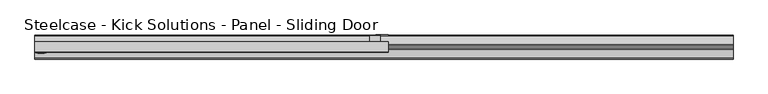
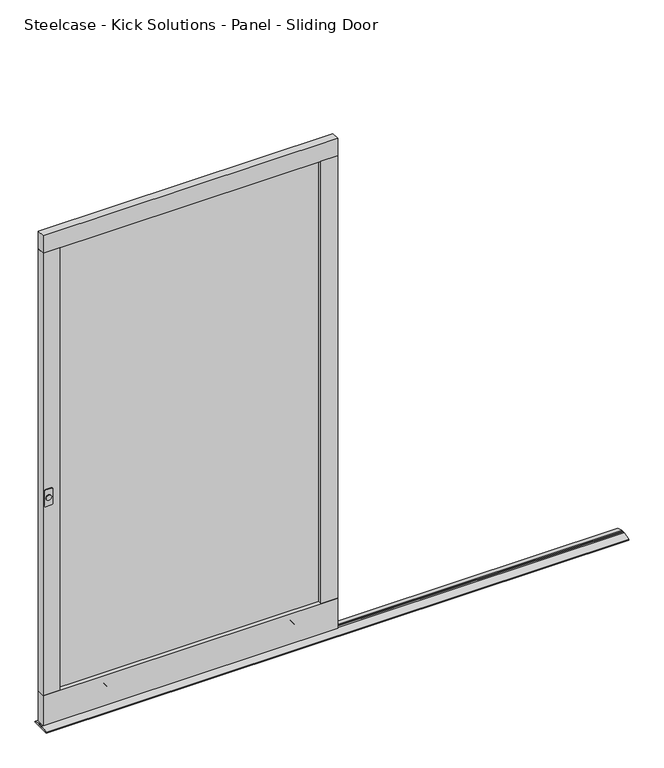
"""IFC4 building model written with IfcOpenShell, lengths in millimetres: furniture geometry, Steelcase - Kick Solutions - Panel - Sliding Door : 78H x 42W - Right Hand with Lock."""

from ifc_helpers import new_model, si_unit, point, frame, frame_2d, origin, place, context, project, spatial, polyline, circle_curve, trimmed, segment, composite_curve, outline, extrude, source, transform, mapped, element, save
from ifc_brep_helpers import plane_surface, cylinder_surface, advanced_brep


def steelcase_kick_solutions_panel_sliding_door_e0c5a5d8(model_context):
    return source(origin(), model_context, "Body", "SolidModel", [
        extrude(outline(composite_curve([segment(trimmed(circle_curve(frame_2d((927.2505008, 19.1322304)), 10.2804656), [point((937.5309664, 19.1322304))], [point((916.9700352, 19.1322304))], False, "CARTESIAN"), True, "CONTINUOUS"), segment(trimmed(circle_curve(frame_2d((927.2505008, 19.1322304)), 10.2804656), [point((916.9700352, 19.1322304))], [point((937.5309664, 19.1322304))], False, "CARTESIAN"), True, "CONTINUOUS")], self_intersect=False)), frame((0.0, -46.3394499, 0.0), z_axis=(0.0, 1.0, 0.0), x_axis=(0.0, 0.0, 1.0)), (0.0, 0.0, 1.0), 2.159),
        extrude(outline(composite_curve([segment(trimmed(circle_curve(frame_2d((954.4039028, 8.8899651)), 6.35), [point((960.7539028, 8.8899651))], [point((954.4039028, 2.5399651))], False, "CARTESIAN"), True, "CONTINUOUS"), segment(polyline([(954.4039028, 2.5399651), (899.7939028, 2.5399651)]), True, "CONTINUOUS"), segment(trimmed(circle_curve(frame_2d((899.7939028, 8.8899651)), 6.35), [point((899.7939028, 2.5399651))], [point((893.4439028, 8.8899651))], False, "CARTESIAN"), True, "CONTINUOUS"), segment(polyline([(893.4439028, 8.8899651), (893.4439028, 29.2099651)]), True, "CONTINUOUS"), segment(trimmed(circle_curve(frame_2d((899.7939028, 29.2099651)), 6.35), [point((893.4439028, 29.2099651))], [point((899.7939028, 35.5599651))], False, "CARTESIAN"), True, "CONTINUOUS"), segment(polyline([(899.7939028, 35.5599651), (954.4039028, 35.5599651)]), True, "CONTINUOUS"), segment(trimmed(circle_curve(frame_2d((954.4039028, 29.2099651)), 6.35), [point((954.4039028, 35.5599651))], [point((960.7539028, 29.2099651))], False, "CARTESIAN"), True, "CONTINUOUS"), segment(polyline([(960.7539028, 29.2099651), (960.7539028, 8.8899651)]), True, "CONTINUOUS")], self_intersect=False)), frame((0.0, -44.1804499, 0.0), z_axis=(0.0, 1.0, 0.0), x_axis=(0.0, 0.0, 1.0)), (0.0, 0.0, 1.0), 2.1118392),
        extrude(outline(composite_curve([segment(polyline([(1247.1399783, 1079.3958938), (1247.1399783, 1096.0915604)]), True, "CONTINUOUS"), segment(trimmed(circle_curve(frame_2d((1238.4356449, 1096.0915604)), 8.7043334), [point((1247.1399783, 1096.0915604))], [point((1238.4356449, 1104.7958938))], True, "CARTESIAN"), True, "CONTINUOUS"), segment(polyline([(1238.4356449, 1104.7958938), (1216.7613141, 1104.7958938)]), True, "CONTINUOUS"), segment(trimmed(circle_curve(frame_2d((1216.7613141, 1097.074558)), 7.7213358), [point((1216.7613141, 1104.7958938))], [point((1209.0399783, 1097.074558))], True, "CARTESIAN"), True, "CONTINUOUS"), segment(polyline([(1209.0399783, 1097.074558), (1209.0399783, 1079.3958938), (1196.3399783, 1079.3958938), (1196.3399783, 1095.8242308)]), True, "CONTINUOUS"), segment(trimmed(circle_curve(frame_2d((1218.1157475, 1095.8242308)), 21.7757692), [point((1196.3399783, 1095.8242308))], [point((1218.1157475, 1117.6))], False, "CARTESIAN"), True, "CONTINUOUS"), segment(polyline([(1218.1157475, 1117.6), (1237.34852, 1117.6)]), True, "CONTINUOUS"), segment(trimmed(circle_curve(frame_2d((1237.34852, 1095.1085417)), 22.4914583), [point((1237.34852, 1117.6))], [point((1259.8399783, 1095.1085417))], False, "CARTESIAN"), True, "CONTINUOUS"), segment(polyline([(1259.8399783, 1095.1085417), (1259.8399783, 1079.3958938), (1247.1399783, 1079.3958938)]), True, "CONTINUOUS")], self_intersect=False)), frame((0.0, 9.7793101, 0.0), z_axis=(0.0, 1.0, 0.0), x_axis=(0.0, 0.0, 1.0)), (0.0, 0.0, 1.0), 2.1118397),
        extrude(outline(polyline([(1092.2634651, -10.3186092), (1059.2434651, -10.3186092), (1059.2434651, 9.7793101), (1092.2634651, 9.7793101), (1092.2634651, -10.3186092)])), frame((0.0, 0.0, 1133.4739028), z_axis=(0.0, 0.0, 1.0), x_axis=(1.0, 0.0, 0.0)), (0.0, 0.0, 1.0), 196.85),
        advanced_brep(
        [(914.4000484, -18.7010906, 6.7959428), (914.4000484, -18.7010906, 108.3959428), (914.4000484, -18.7010906, 57.5959428), (914.4000484, -23.8703628, 6.7959428), (914.4000484, -23.8703628, 108.3959428), (914.4000484, -23.8703628, 57.5959428)],
        [
            (0, 1, circle_curve(frame((914.4000484, -18.7010906, 57.5959428), z_axis=(0.0, 1.0, 0.0), x_axis=(0.0, 0.0, 1.0)), 50.8)),
            (1, 2),
            (2, 0),
            (1, 0, circle_curve(frame((914.4000484, -18.7010906, 57.5959428), z_axis=(0.0, 1.0, 0.0), x_axis=(0.0, 0.0, 1.0)), 50.8)),
            (3, 4, circle_curve(frame((914.4000484, -23.8703628, 57.5959428), z_axis=(0.0, 1.0, 0.0), x_axis=(0.0, 0.0, 1.0)), 50.8)),
            (4, 1),
            (0, 3),
            (4, 3, circle_curve(frame((914.4000484, -23.8703628, 57.5959428), z_axis=(0.0, 1.0, 0.0), x_axis=(0.0, 0.0, 1.0)), 50.8)),
            (5, 4),
            (3, 5),
        ],
        [
            plane_surface(frame((914.4000484, -18.7010906, 57.5959428), z_axis=(0.0, 1.0, 0.0), x_axis=(0.0, 0.0, 1.0))),
            cylinder_surface(frame((914.4000484, -28.422537, 57.5959428), z_axis=(0.0, -1.0, 0.0), x_axis=(0.0, 0.0, 1.0)), 50.8),
            plane_surface(frame((914.4000484, -23.8703628, 57.5959428), z_axis=(0.0, -1.0, 0.0), x_axis=(0.0, 0.0, 1.0))),
        ],
        [
            (0, [[1, 2, 3]]),
            (0, [[4, -3, -2]]),
            (1, [[5, 6, -1, 7]]),
            (1, [[8, -7, -4, -6]]),
            (2, [[9, -5, 10]]),
            (2, [[-10, -8, -9]]),
        ],
    ),
        advanced_brep(
        [(914.4000484, -28.422537, 6.7959428), (914.4000484, -28.422537, 108.3959428), (914.4000484, -28.422537, 57.5959428), (914.4000484, -33.4459111, 6.7959428), (914.4000484, -33.4459111, 108.3959428), (914.4000484, -33.4459111, 57.5959428)],
        [
            (0, 1, circle_curve(frame((914.4000484, -28.422537, 57.5959428), z_axis=(0.0, 1.0, 0.0), x_axis=(0.0, 0.0, 1.0)), 50.8)),
            (1, 2),
            (2, 0),
            (1, 0, circle_curve(frame((914.4000484, -28.422537, 57.5959428), z_axis=(0.0, 1.0, 0.0), x_axis=(0.0, 0.0, 1.0)), 50.8)),
            (3, 4, circle_curve(frame((914.4000484, -33.4459111, 57.5959428), z_axis=(0.0, 1.0, 0.0), x_axis=(0.0, 0.0, 1.0)), 50.8)),
            (4, 1),
            (0, 3),
            (4, 3, circle_curve(frame((914.4000484, -33.4459111, 57.5959428), z_axis=(0.0, 1.0, 0.0), x_axis=(0.0, 0.0, 1.0)), 50.8)),
            (5, 4),
            (3, 5),
        ],
        [
            plane_surface(frame((914.4000484, -28.422537, 57.5959428), z_axis=(0.0, 1.0, 0.0), x_axis=(0.0, 0.0, 1.0))),
            cylinder_surface(frame((914.4000484, -28.422537, 57.5959428), z_axis=(0.0, -1.0, 0.0), x_axis=(0.0, 0.0, 1.0)), 50.8),
            plane_surface(frame((914.4000484, -33.4459111, 57.5959428), z_axis=(0.0, -1.0, 0.0), x_axis=(0.0, 0.0, 1.0))),
        ],
        [
            (0, [[1, 2, 3]]),
            (0, [[4, -3, -2]]),
            (1, [[5, 6, -1, 7]]),
            (1, [[8, -7, -4, -6]]),
            (2, [[9, -5, 10]]),
            (2, [[-10, -8, -9]]),
        ],
    ),
        advanced_brep(
        [(203.2000484, -18.7010906, 6.7959428), (203.2000484, -18.7010906, 108.3959428), (203.2000484, -18.7010906, 57.5959428), (203.2000484, -23.8703628, 6.7959428), (203.2000484, -23.8703628, 108.3959428), (203.2000484, -23.8703628, 57.5959428)],
        [
            (0, 1, circle_curve(frame((203.2000484, -18.7010906, 57.5959428), z_axis=(0.0, 1.0, 0.0), x_axis=(0.0, 0.0, 1.0)), 50.8)),
            (1, 2),
            (2, 0),
            (1, 0, circle_curve(frame((203.2000484, -18.7010906, 57.5959428), z_axis=(0.0, 1.0, 0.0), x_axis=(0.0, 0.0, 1.0)), 50.8)),
            (3, 4, circle_curve(frame((203.2000484, -23.8703628, 57.5959428), z_axis=(0.0, 1.0, 0.0), x_axis=(0.0, 0.0, 1.0)), 50.8)),
            (4, 1),
            (0, 3),
            (4, 3, circle_curve(frame((203.2000484, -23.8703628, 57.5959428), z_axis=(0.0, 1.0, 0.0), x_axis=(0.0, 0.0, 1.0)), 50.8)),
            (5, 4),
            (3, 5),
        ],
        [
            plane_surface(frame((203.2000484, -18.7010906, 57.5959428), z_axis=(0.0, 1.0, 0.0), x_axis=(0.0, 0.0, 1.0))),
            cylinder_surface(frame((203.2000484, -28.422537, 57.5959428), z_axis=(0.0, -1.0, 0.0), x_axis=(0.0, 0.0, 1.0)), 50.8),
            plane_surface(frame((203.2000484, -23.8703628, 57.5959428), z_axis=(0.0, -1.0, 0.0), x_axis=(0.0, 0.0, 1.0))),
        ],
        [
            (0, [[1, 2, 3]]),
            (0, [[4, -3, -2]]),
            (1, [[5, 6, -1, 7]]),
            (1, [[8, -7, -4, -6]]),
            (2, [[9, -5, 10]]),
            (2, [[-10, -8, -9]]),
        ],
    ),
        advanced_brep(
        [(203.2000484, -28.422537, 6.7959428), (203.2000484, -28.422537, 108.3959428), (203.2000484, -28.422537, 57.5959428), (203.2000484, -33.4459111, 6.7959428), (203.2000484, -33.4459111, 108.3959428), (203.2000484, -33.4459111, 57.5959428)],
        [
            (0, 1, circle_curve(frame((203.2000484, -28.422537, 57.5959428), z_axis=(0.0, 1.0, 0.0), x_axis=(0.0, 0.0, 1.0)), 50.8)),
            (1, 2),
            (2, 0),
            (1, 0, circle_curve(frame((203.2000484, -28.422537, 57.5959428), z_axis=(0.0, 1.0, 0.0), x_axis=(0.0, 0.0, 1.0)), 50.8)),
            (3, 4, circle_curve(frame((203.2000484, -33.4459111, 57.5959428), z_axis=(0.0, 1.0, 0.0), x_axis=(0.0, 0.0, 1.0)), 50.8)),
            (4, 1),
            (0, 3),
            (4, 3, circle_curve(frame((203.2000484, -33.4459111, 57.5959428), z_axis=(0.0, 1.0, 0.0), x_axis=(0.0, 0.0, 1.0)), 50.8)),
            (5, 4),
            (3, 5),
        ],
        [
            plane_surface(frame((203.2000484, -28.422537, 57.5959428), z_axis=(0.0, 1.0, 0.0), x_axis=(0.0, 0.0, 1.0))),
            cylinder_surface(frame((203.2000484, -28.422537, 57.5959428), z_axis=(0.0, -1.0, 0.0), x_axis=(0.0, 0.0, 1.0)), 50.8),
            plane_surface(frame((203.2000484, -33.4459111, 57.5959428), z_axis=(0.0, -1.0, 0.0), x_axis=(0.0, 0.0, 1.0))),
        ],
        [
            (0, [[1, 2, 3]]),
            (0, [[4, -3, -2]]),
            (1, [[5, 6, -1, 7]]),
            (1, [[8, -7, -4, -6]]),
            (2, [[9, -5, 10]]),
            (2, [[-10, -8, -9]]),
        ],
    ),
        extrude(outline(polyline([(63.5000484, -42.0686107), (0.0, -42.0686107), (0.0, -10.3186092), (63.5000484, -10.3186092), (63.5000484, -42.0686107)])), frame((0.0, 0.0, 137.1589063), z_axis=(0.0, 0.0, 1.0), x_axis=(1.0, 0.0, 0.0)), (0.0, 0.0, 1.0), 1774.1911421),
        extrude(outline(polyline([(1117.6, -42.0686107), (1054.1000484, -42.0686107), (1054.1000484, -10.3186092), (1117.6, -10.3186092), (1117.6, -42.0686107)])), frame((0.0, 0.0, 137.1589063), z_axis=(0.0, 0.0, 1.0), x_axis=(1.0, 0.0, 0.0)), (0.0, 0.0, 1.0), 1774.1911421),
        extrude(outline(polyline([(-24.2505784, 6.2879429), (-17.9005799, 6.2879429), (-17.9005799, 12.2490843), (10.0049365, 3.0138476), (11.9383101, 0.0), (-64.2312094, 0.0), (-62.2978359, 3.0138476), (-34.3923194, 12.2490843), (-34.3923194, 6.2879429), (-28.042321, 6.2879429), (-28.042321, 12.6379425), (-24.2505784, 12.6379425), (-24.2505784, 6.2879429)])), frame((0.0, 0.0, 0.0), z_axis=(1.0, 0.0, 0.0), x_axis=(0.0, 1.0, 0.0)), (0.0, 0.0, 1.0), 2209.8),
        extrude(outline(polyline([(1117.6, -10.3186092), (1117.6, -42.0686107), (0.0, -42.0686107), (0.0, -10.3186092), (1117.6, -10.3186092)])), frame((0.0, 0.0, 16.5089033), z_axis=(0.0, 0.0, 1.0), x_axis=(1.0, 0.0, 0.0)), (0.0, 0.0, 1.0), 120.650003),
        extrude(outline(polyline([(1117.6, -10.3186092), (1117.6, -42.0686107), (0.0, -42.0686107), (0.0, -10.3186092), (1117.6, -10.3186092)])), frame((0.0, 0.0, 1911.3500484), z_axis=(0.0, 0.0, 1.0), x_axis=(1.0, 0.0, 0.0)), (0.0, 0.0, 1.0), 69.8499516),
        extrude(outline(polyline([(1054.1000484, -27.6369762), (63.5000484, -27.6369762), (63.5000484, -24.6559232), (1054.1000484, -24.6559232), (1054.1000484, -27.6369762)])), frame((0.0, 0.0, 137.1589063), z_axis=(0.0, 0.0, 1.0), x_axis=(1.0, 0.0, 0.0)), (0.0, 0.0, 1.0), 1774.1911421),
    ])


if __name__ == "__main__":
    model = new_model("IFC4")
    model_context = context("Model", 3, world=origin())
    ifc_project = project(units=[si_unit("LENGTHUNIT", "METRE", prefix="MILLI")], contexts=[model_context])
    site = spatial("IfcSite", under=ifc_project)
    building = spatial("IfcBuilding", under=site)
    placement = place(None, origin())
    steelcase_kick_solutions_panel_sliding_door_shape = steelcase_kick_solutions_panel_sliding_door_e0c5a5d8(model_context)
    element("IfcFurniture", 1, ObjectType="Steelcase - Kick Solutions - Panel - Sliding Door : 78H x 42W - Right Hand with Lock", at=placement, inside=building, context=model_context, shape_type="MappedRepresentation", body=[
        mapped(steelcase_kick_solutions_panel_sliding_door_shape, transform((0.0, 0.0, 0.0), x_axis=(1.0, 0.0, 0.0), y_axis=(0.0, 1.0, 0.0), z_axis=(0.0, 0.0, 1.0))),
    ])
    save(model, "model.ifc")
